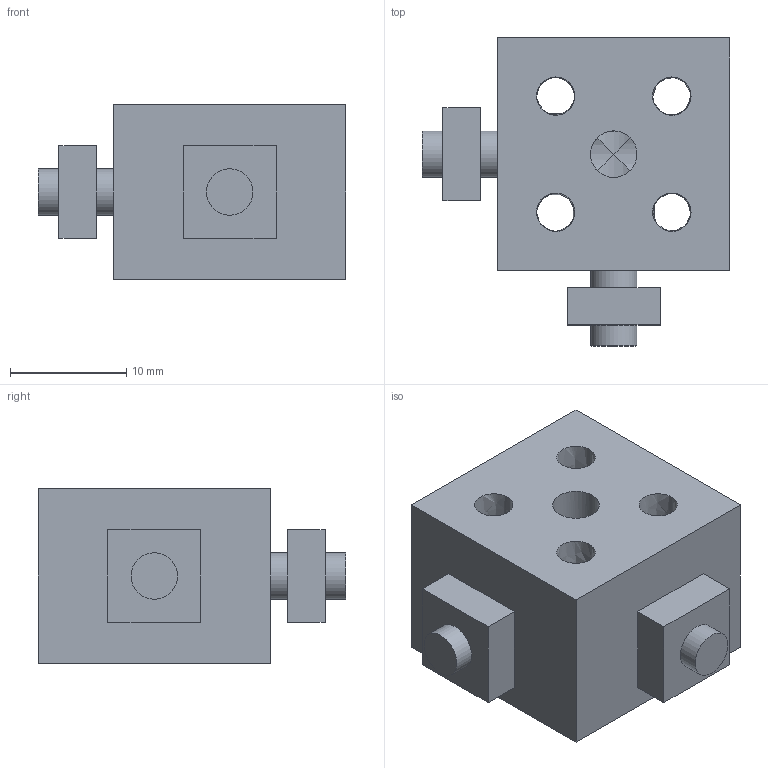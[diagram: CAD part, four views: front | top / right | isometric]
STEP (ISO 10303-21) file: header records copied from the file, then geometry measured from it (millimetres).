
FILE_DESCRIPTION((''),'2;1');
FILE_NAME('C:\Documents and Settings\AMS8\デスクトップ\2013from西村作業用\【3D】M4ブラケット\ABLB-2015-4-T\ABLB-2015-4-T2.stp','2013-08-20T12:01:29',('AMS8'),(''),'Autodesk Inventor 2008','Autodesk Inventor 2008','');
FILE_SCHEMA(('AUTOMOTIVE_DESIGN { 1 0 10303 214 1 1 1 1 }'));
Length unit declared in the file: millimetre
Products named in the file (6): ABLB-2015-4-T; ABLB-2015-4-T1_1; ABLB-2015-4-T2; ABLB-2015-4-T3; ABLB-2015-4-T4; ABLB-2015-4-T5
Assembly tree (5 placements, depth 2):
  ABLB-2015-4-T
    ABLB-2015-4-T1_1
    ABLB-2015-4-T2
    ABLB-2015-4-T3
    ABLB-2015-4-T4
    ABLB-2015-4-T5
Bounding box: 26.5 x 26.5 x 15 mm (x, y, z)
Volume: 4739.4 mm3; surface area: 4092.8 mm2
Topology: 5 solids, 5 shells, 43 faces, 118 edges, 80 vertices
Faces by surface type: plane 26, cylinder 13, bspline 4
Full cylindrical faces by diameter (mm): 4 x5, 4.5 x2, 7 x2, 8 x4
Entity records: 1889 total; most frequent: CARTESIAN_POINT 736, DIRECTION 210, ORIENTED_EDGE 174, AXIS2_PLACEMENT_3D 87, EDGE_CURVE 87, EDGE_LOOP 85, VERTEX_POINT 68, FACE_OUTER_BOUND 43
